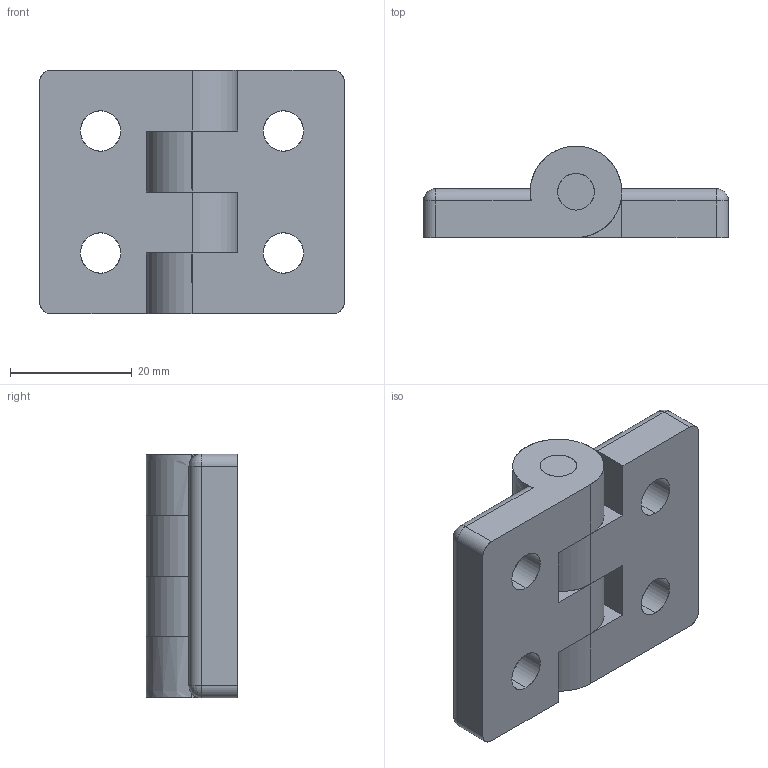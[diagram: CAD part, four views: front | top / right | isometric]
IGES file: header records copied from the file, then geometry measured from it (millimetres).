
Start section: SolidWorks IGES file using analytic representation for surfaces
Global section: file name: D:\LETROMEC CATALOGUE\Hinge\LIMA-H30X30-NEW\LIMA-H30X30-NEW.IGS; native system: SolidWorks 2013; preprocessor: SolidWorks 2013; author: User; date: 180315.205030; units: millimetre
Bounding box: 50 x 15 x 40 mm (x, y, z)
Surface area: 8986.3 mm2 (no closed solid volume)
Topology: 0 solids, 0 shells, 70 faces, 1150 edges, 1150 vertices
Faces by surface type: revolution 48, bspline 22
